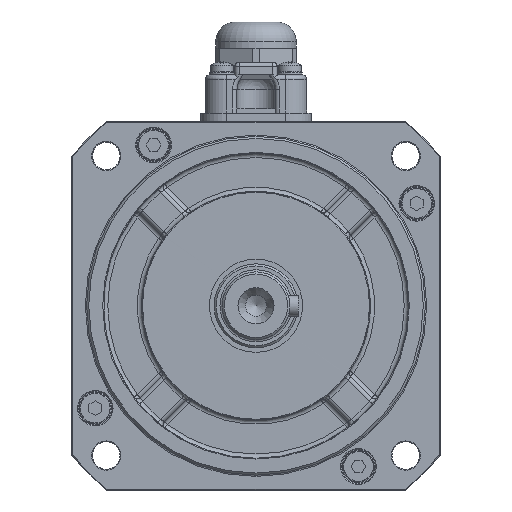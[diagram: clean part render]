
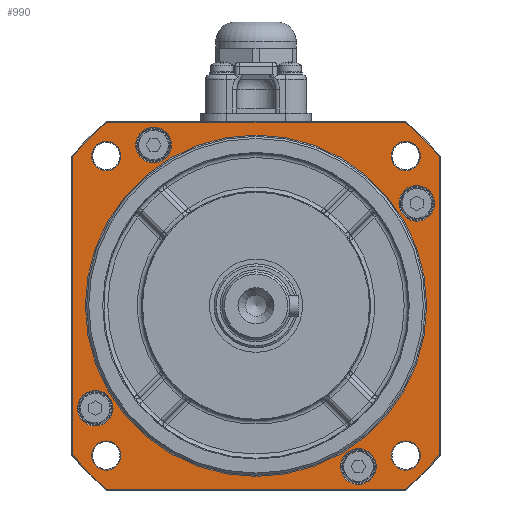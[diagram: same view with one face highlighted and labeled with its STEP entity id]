
A CAD part, front view. The second image highlights one B-rep face of the part: STEP entity #990.
In plain terms, the highlighted planar face has unit normal (0, -1, 0).
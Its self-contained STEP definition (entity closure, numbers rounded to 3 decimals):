
#990=ADVANCED_FACE('',(#3653,#3654,#3655,#3656,#3657,#3658,#3659,#3660,#3661,#3662),#3663,.T.);
#3653=FACE_BOUND('',#9292,.T.);
#3654=FACE_BOUND('',#9293,.T.);
#3655=FACE_BOUND('',#9294,.T.);
#3656=FACE_BOUND('',#9295,.T.);
#3657=FACE_BOUND('',#9296,.T.);
#3658=FACE_BOUND('',#9297,.T.);
#3659=FACE_BOUND('',#9298,.T.);
#3660=FACE_BOUND('',#9299,.T.);
#3661=FACE_BOUND('',#9300,.T.);
#3662=FACE_OUTER_BOUND('',#9301,.T.);
#3663=PLANE('',#9302);
#9292=EDGE_LOOP('',(#20941));
#9293=EDGE_LOOP('',(#20942));
#9294=EDGE_LOOP('',(#20943));
#9295=EDGE_LOOP('',(#20944));
#9296=EDGE_LOOP('',(#20945));
#9297=EDGE_LOOP('',(#20946));
#9298=EDGE_LOOP('',(#20947));
#9299=EDGE_LOOP('',(#20948));
#9300=EDGE_LOOP('',(#20949));
#9301=EDGE_LOOP('',(#20950,#20951,#20952,#20953,#20954,#20955,#20956,#20957));
#9302=AXIS2_PLACEMENT_3D('',#20958,#20959,#20960);
#20941=ORIENTED_EDGE('',*,*,#29512,.T.);
#20942=ORIENTED_EDGE('',*,*,#29797,.T.);
#20943=ORIENTED_EDGE('',*,*,#29679,.T.);
#20944=ORIENTED_EDGE('',*,*,#29469,.T.);
#20945=ORIENTED_EDGE('',*,*,#29756,.T.);
#20946=ORIENTED_EDGE('',*,*,#29542,.T.);
#20947=ORIENTED_EDGE('',*,*,#29284,.T.);
#20948=ORIENTED_EDGE('',*,*,#29798,.T.);
#20949=ORIENTED_EDGE('',*,*,#29799,.T.);
#20950=ORIENTED_EDGE('',*,*,#29800,.T.);
#20951=ORIENTED_EDGE('',*,*,#29665,.T.);
#20952=ORIENTED_EDGE('',*,*,#29544,.T.);
#20953=ORIENTED_EDGE('',*,*,#29548,.T.);
#20954=ORIENTED_EDGE('',*,*,#29801,.T.);
#20955=ORIENTED_EDGE('',*,*,#29802,.T.);
#20956=ORIENTED_EDGE('',*,*,#29803,.T.);
#20957=ORIENTED_EDGE('',*,*,#29804,.T.);
#20958=CARTESIAN_POINT('',(0.,-135.5,0.));
#20959=DIRECTION('',(0.,-1.0,0.));
#20960=DIRECTION('',(-1.0,0.,0.0));
#29284=EDGE_CURVE('',#34426,#34426,#34427,.T.);
#29469=EDGE_CURVE('',#34750,#34750,#34751,.T.);
#29512=EDGE_CURVE('',#34818,#34818,#34819,.T.);
#29542=EDGE_CURVE('',#34865,#34865,#34866,.T.);
#29544=EDGE_CURVE('',#34870,#34868,#34871,.T.);
#29548=EDGE_CURVE('',#34868,#34876,#34878,.T.);
#29665=EDGE_CURVE('',#35050,#34870,#35052,.T.);
#29679=EDGE_CURVE('',#35075,#35075,#35076,.T.);
#29756=EDGE_CURVE('',#35182,#35182,#35183,.T.);
#29797=EDGE_CURVE('',#35239,#35239,#35240,.T.);
#29798=EDGE_CURVE('',#35241,#35241,#35242,.T.);
#29799=EDGE_CURVE('',#35243,#35243,#35244,.T.);
#29800=EDGE_CURVE('',#35245,#35050,#35246,.T.);
#29801=EDGE_CURVE('',#34876,#35247,#35248,.T.);
#29802=EDGE_CURVE('',#35247,#35249,#35250,.T.);
#29803=EDGE_CURVE('',#35249,#35251,#35252,.T.);
#29804=EDGE_CURVE('',#35251,#35245,#35253,.T.);
#34426=VERTEX_POINT('',#42280);
#34427=CIRCLE('',#42281,3.45);
#34750=VERTEX_POINT('',#43058);
#34751=CIRCLE('',#43059,4.2);
#34818=VERTEX_POINT('',#43274);
#34819=CIRCLE('',#43275,40.3);
#34865=VERTEX_POINT('',#43331);
#34866=CIRCLE('',#43332,3.45);
#34868=VERTEX_POINT('',#43334);
#34870=VERTEX_POINT('',#43336);
#34871=CIRCLE('',#43337,55.8);
#34876=VERTEX_POINT('',#43342);
#34878=LINE('',#43344,#43345);
#35050=VERTEX_POINT('',#43682);
#35052=LINE('',#43684,#43685);
#35075=VERTEX_POINT('',#43732);
#35076=CIRCLE('',#43733,4.2);
#35182=VERTEX_POINT('',#43957);
#35183=CIRCLE('',#43958,4.2);
#35239=VERTEX_POINT('',#44303);
#35240=CIRCLE('',#44304,4.2);
#35241=VERTEX_POINT('',#44305);
#35242=CIRCLE('',#44306,3.45);
#35243=VERTEX_POINT('',#44307);
#35244=CIRCLE('',#44308,3.45);
#35245=VERTEX_POINT('',#44309);
#35246=CIRCLE('',#44310,55.8);
#35247=VERTEX_POINT('',#44311);
#35248=CIRCLE('',#44312,55.8);
#35249=VERTEX_POINT('',#44313);
#35250=LINE('',#44314,#44315);
#35251=VERTEX_POINT('',#44316);
#35252=CIRCLE('',#44317,55.8);
#35253=LINE('',#44318,#44319);
#42280=CARTESIAN_POINT('',(35.355,-135.5,-38.805));
#42281=AXIS2_PLACEMENT_3D('',#52571,#52572,#52573);
#43058=CARTESIAN_POINT('',(-24.178,-135.5,33.753));
#43059=AXIS2_PLACEMENT_3D('',#52924,#52925,#52926);
#43274=CARTESIAN_POINT('',(0.,-135.5,-40.3));
#43275=AXIS2_PLACEMENT_3D('',#52996,#52997,#52998);
#43331=CARTESIAN_POINT('',(35.355,-135.5,31.905));
#43332=AXIS2_PLACEMENT_3D('',#53066,#53067,#53068);
#43334=CARTESIAN_POINT('',(43.3,-135.5,-35.196));
#43336=CARTESIAN_POINT('',(35.196,-135.5,-43.3));
#43337=AXIS2_PLACEMENT_3D('',#53072,#53073,#53074);
#43342=CARTESIAN_POINT('',(43.3,-135.5,35.196));
#43344=CARTESIAN_POINT('',(43.3,-135.5,0.));
#43345=VECTOR('',#53084,1.0);
#43682=CARTESIAN_POINT('',(-35.196,-135.5,-43.3));
#43684=CARTESIAN_POINT('',(0.,-135.5,-43.3));
#43685=VECTOR('',#53283,1.0);
#43732=CARTESIAN_POINT('',(24.178,-135.5,-42.153));
#43733=AXIS2_PLACEMENT_3D('',#53299,#53300,#53301);
#43957=CARTESIAN_POINT('',(-37.953,-135.5,-28.378));
#43958=AXIS2_PLACEMENT_3D('',#53460,#53461,#53462);
#44303=CARTESIAN_POINT('',(37.953,-135.5,19.978));
#44304=AXIS2_PLACEMENT_3D('',#53534,#53535,#53536);
#44305=CARTESIAN_POINT('',(-35.355,-135.5,31.905));
#44306=AXIS2_PLACEMENT_3D('',#53537,#53538,#53539);
#44307=CARTESIAN_POINT('',(-35.355,-135.5,-38.805));
#44308=AXIS2_PLACEMENT_3D('',#53540,#53541,#53542);
#44309=CARTESIAN_POINT('',(-43.3,-135.5,-35.196));
#44310=AXIS2_PLACEMENT_3D('',#53543,#53544,#53545);
#44311=CARTESIAN_POINT('',(35.196,-135.5,43.3));
#44312=AXIS2_PLACEMENT_3D('',#53546,#53547,#53548);
#44313=CARTESIAN_POINT('',(-35.196,-135.5,43.3));
#44314=CARTESIAN_POINT('',(0.,-135.5,43.3));
#44315=VECTOR('',#53549,1.0);
#44316=CARTESIAN_POINT('',(-43.3,-135.5,35.196));
#44317=AXIS2_PLACEMENT_3D('',#53550,#53551,#53552);
#44318=CARTESIAN_POINT('',(-43.3,-135.5,0.));
#44319=VECTOR('',#53553,1.0);
#52571=CARTESIAN_POINT('',(35.355,-135.5,-35.355));
#52572=DIRECTION('',(0.,1.0,0.));
#52573=DIRECTION('',(0.,0.,-1.0));
#52924=CARTESIAN_POINT('',(-24.178,-135.5,37.953));
#52925=DIRECTION('',(0.,1.0,0.));
#52926=DIRECTION('',(0.,0.,-1.0));
#52996=CARTESIAN_POINT('',(0.,-135.5,0.));
#52997=DIRECTION('',(0.,1.0,0.));
#52998=DIRECTION('',(0.,0.,-1.0));
#53066=CARTESIAN_POINT('',(35.355,-135.5,35.355));
#53067=DIRECTION('',(0.,1.0,0.));
#53068=DIRECTION('',(0.,0.,-1.0));
#53072=CARTESIAN_POINT('',(0.,-135.5,0.));
#53073=DIRECTION('',(0.,-1.0,0.));
#53074=DIRECTION('',(0.,0.,-1.0));
#53084=DIRECTION('',(0.,0.,1.0));
#53283=DIRECTION('',(1.0,0.,0.));
#53299=CARTESIAN_POINT('',(24.178,-135.5,-37.953));
#53300=DIRECTION('',(0.,1.0,0.));
#53301=DIRECTION('',(0.,0.,-1.0));
#53460=CARTESIAN_POINT('',(-37.953,-135.5,-24.178));
#53461=DIRECTION('',(0.,1.0,0.));
#53462=DIRECTION('',(0.,0.,-1.0));
#53534=CARTESIAN_POINT('',(37.953,-135.5,24.178));
#53535=DIRECTION('',(0.,1.0,0.));
#53536=DIRECTION('',(0.,0.,-1.0));
#53537=CARTESIAN_POINT('',(-35.355,-135.5,35.355));
#53538=DIRECTION('',(0.,1.0,0.));
#53539=DIRECTION('',(0.,0.,-1.0));
#53540=CARTESIAN_POINT('',(-35.355,-135.5,-35.355));
#53541=DIRECTION('',(0.,1.0,0.));
#53542=DIRECTION('',(0.,0.,-1.0));
#53543=CARTESIAN_POINT('',(0.,-135.5,0.));
#53544=DIRECTION('',(0.,-1.0,0.));
#53545=DIRECTION('',(0.,0.,-1.0));
#53546=CARTESIAN_POINT('',(0.,-135.5,0.));
#53547=DIRECTION('',(0.,-1.0,0.));
#53548=DIRECTION('',(0.,0.,-1.0));
#53549=DIRECTION('',(-1.0,0.,0.));
#53550=CARTESIAN_POINT('',(0.,-135.5,0.));
#53551=DIRECTION('',(0.,-1.0,0.));
#53552=DIRECTION('',(0.,0.,-1.0));
#53553=DIRECTION('',(0.,0.,-1.0));
